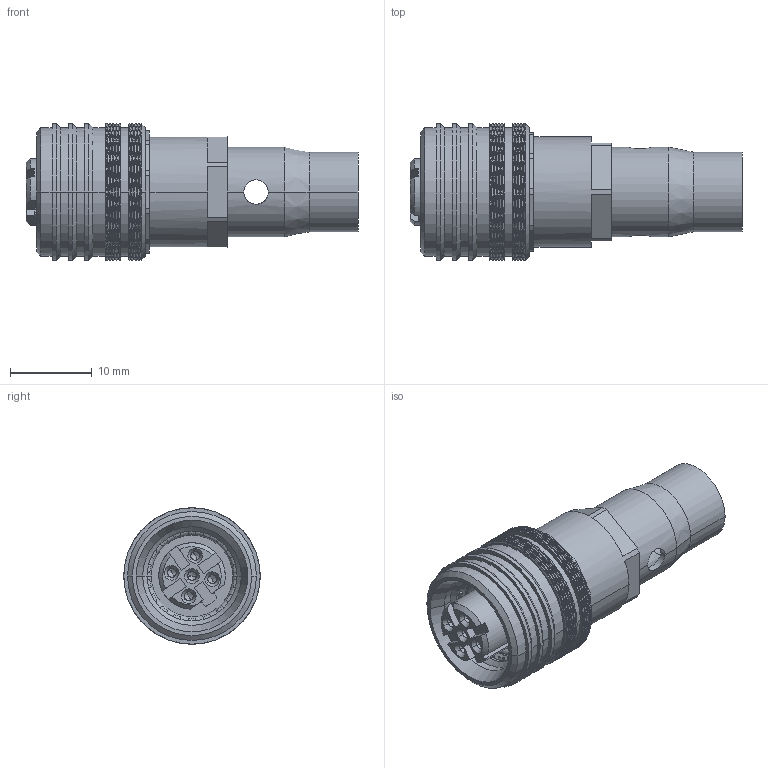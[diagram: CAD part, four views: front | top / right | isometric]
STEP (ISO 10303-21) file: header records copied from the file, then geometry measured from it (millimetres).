
FILE_DESCRIPTION((''),'2;1');
FILE_NAME('216D-05FO1_C_1_ASM','2026-04-27T',('fros.liao'),(''),'CREO PARAMETRIC BY PTC INC, 2018360','CREO PARAMETRIC BY PTC INC, 2018360','');
FILE_SCHEMA(('CONFIG_CONTROL_DESIGN'));
Products named in the file (9): SHELL_FEMALE_1_1; HSG_FEMALE_1_1; PIN_FEMALE_1_1; LOCK_FEMALE_1_1; ORING_FEMALE_1_1; OUTSHELL_FEMALE_1_1; GND_SHELL_1_1; ORING_1_1; 216D-05FO1_C_1_ASM
Assembly tree (12 placements, depth 2):
  216D-05FO1_C_1_ASM
    SHELL_FEMALE_1_1
    HSG_FEMALE_1_1
    PIN_FEMALE_1_1  x5
    LOCK_FEMALE_1_1
    ORING_FEMALE_1_1
    OUTSHELL_FEMALE_1_1
    GND_SHELL_1_1
    ORING_1_1
Bounding box: 40.7 x 16.7 x 16.7 mm (x, y, z)
Volume: 3271.7 mm3; surface area: 7654.5 mm2
Topology: 12 solids, 12 shells, 2602 faces, 6101 edges, 3541 vertices
Faces by surface type: bspline 1541, cylinder 680, plane 261, cone 108, torus 12
Entity records: 108874 total; most frequent: CARTESIAN_POINT 64168, ORIENTED_EDGE 11458, EDGE_CURVE 5729, DIRECTION 5060, B_SPLINE_CURVE_WITH_KNOTS 3361, VERTEX_POINT 3309, EDGE_LOOP 2514, FACE_OUTER_BOUND 2462
